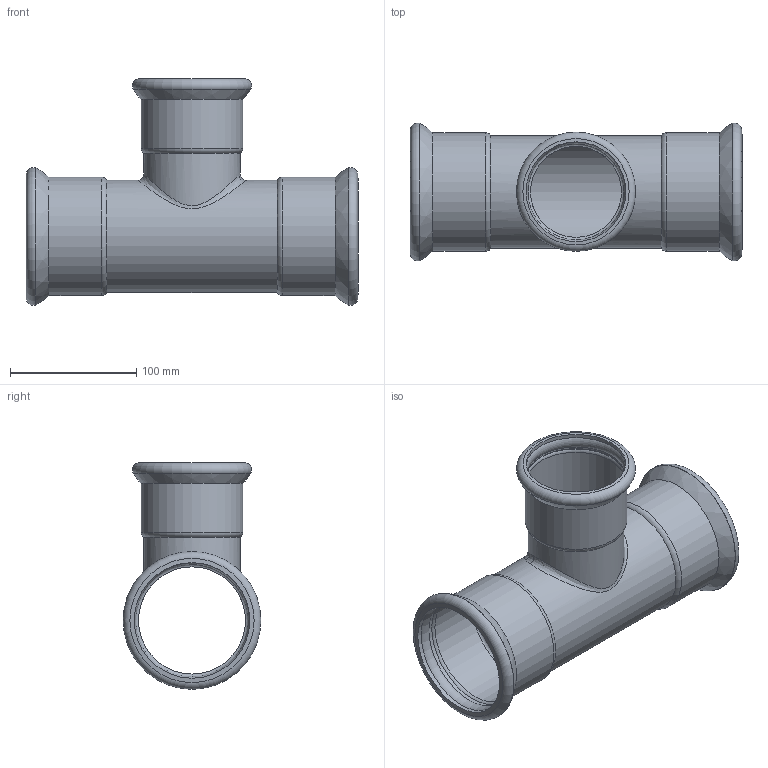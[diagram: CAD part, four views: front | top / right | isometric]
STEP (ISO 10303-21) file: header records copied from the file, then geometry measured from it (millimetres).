
FILE_DESCRIPTION(/* description */ ('TEE RIDOTTO 88,9-76,1-88,9'),/* implementation_level */ '2;1');
FILE_NAME(/* name */ 'R:\Disegni3D_Area_Manager\Inoxpres.step\192_INOXPRES\192088076_Inoxpres.stp',/* time_stamp */ '2022-10-12T11:19:01+02:00',/* author */ ('Vault'),/* organization */ ('Raccorderie metalliche s.p.a. '),/* preprocessor_version */ 'ST-DEVELOPER v18.1',/* originating_system */ 'Autodesk Inventor 2020',/* authorisation */ 'Raccorderie metalliche s.p.a. ');
FILE_SCHEMA (('AUTOMOTIVE_DESIGN { 1 0 10303 214 3 1 1 }'));
Length unit declared in the file: millimetre
Products named in the file (1): 192088076_Inoxpres
Bounding box: 263 x 109.13 x 179.51 mm (x, y, z)
Volume: 256276.1 mm3; surface area: 192737 mm2
Topology: 1 solids, 1 shells, 42 faces, 149 edges, 109 vertices
Faces by surface type: cylinder 16, torus 15, bspline 5, cone 4, plane 2
Full cylindrical faces by diameter (mm): 72.1 x1, 76.1 x1, 76.7 x1, 79 x2, 80.7 x1, 84.9 x1, 88.9 x1, 89.6 x2, 91.5 x4, 93.6 x2
Entity records: 2459 total; most frequent: CARTESIAN_POINT 999, DIRECTION 344, ORIENTED_EDGE 302, AXIS2_PLACEMENT_3D 161, EDGE_CURVE 151, CIRCLE 123, VERTEX_POINT 111, EDGE_LOOP 46
